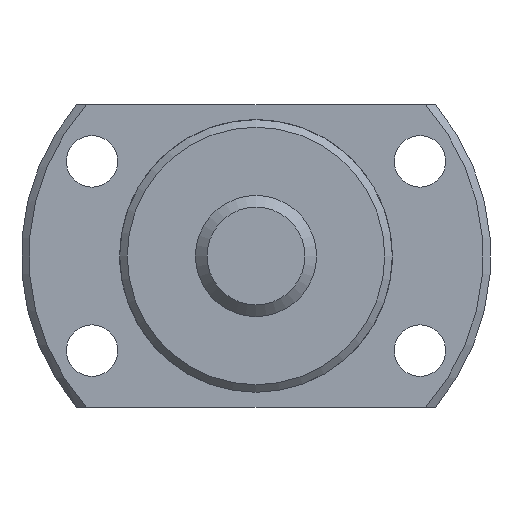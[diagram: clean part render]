
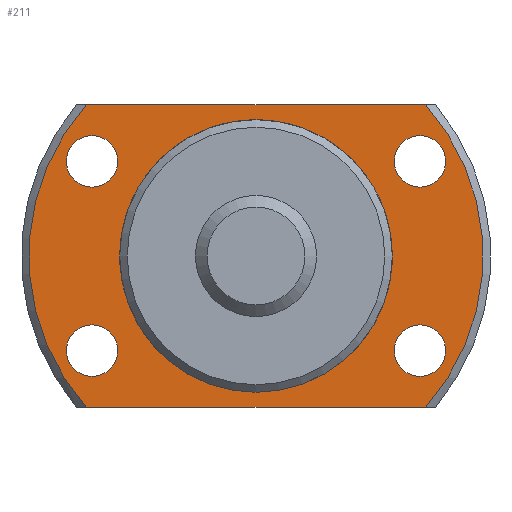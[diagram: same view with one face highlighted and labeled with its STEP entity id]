
A CAD part, left-side view. The second image highlights one B-rep face of the part: STEP entity #211.
In plain terms, the highlighted planar face has unit normal (-1, 0, 0).
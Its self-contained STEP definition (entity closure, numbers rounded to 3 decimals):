
#211 = ADVANCED_FACE( '', ( #329, #330, #331, #332, #333, #334 ), #335, .F. );
#329 = FACE_OUTER_BOUND( '', #474, .T. );
#330 = FACE_BOUND( '', #475, .T. );
#331 = FACE_BOUND( '', #476, .T. );
#332 = FACE_BOUND( '', #477, .T. );
#333 = FACE_BOUND( '', #478, .T. );
#334 = FACE_BOUND( '', #479, .T. );
#335 = PLANE( '', #480 );
#474 = EDGE_LOOP( '', ( #812, #813, #814, #815 ) );
#475 = EDGE_LOOP( '', ( #816 ) );
#476 = EDGE_LOOP( '', ( #817 ) );
#477 = EDGE_LOOP( '', ( #818 ) );
#478 = EDGE_LOOP( '', ( #819 ) );
#479 = EDGE_LOOP( '', ( #820 ) );
#480 = AXIS2_PLACEMENT_3D( '', #821, #822, #823 );
#812 = ORIENTED_EDGE( '', *, *, #940, .F. );
#813 = ORIENTED_EDGE( '', *, *, #1029, .F. );
#814 = ORIENTED_EDGE( '', *, *, #1030, .F. );
#815 = ORIENTED_EDGE( '', *, *, #938, .F. );
#816 = ORIENTED_EDGE( '', *, *, #1031, .T. );
#817 = ORIENTED_EDGE( '', *, *, #1032, .T. );
#818 = ORIENTED_EDGE( '', *, *, #1033, .T. );
#819 = ORIENTED_EDGE( '', *, *, #1034, .T. );
#820 = ORIENTED_EDGE( '', *, *, #1035, .T. );
#821 = CARTESIAN_POINT( '', ( 24., 8.85, 0. ) );
#822 = DIRECTION( '', ( 1., 0., 0. ) );
#823 = DIRECTION( '', ( 0., 0., -1. ) );
#938 = EDGE_CURVE( '', #1066, #1068, #1069, .T. );
#940 = EDGE_CURVE( '', #1071, #1066, #1072, .T. );
#1029 = EDGE_CURVE( '', #1219, #1071, #1220, .T. );
#1030 = EDGE_CURVE( '', #1068, #1219, #1221, .T. );
#1031 = EDGE_CURVE( '', #1222, #1222, #1223, .T. );
#1032 = EDGE_CURVE( '', #1224, #1224, #1225, .T. );
#1033 = EDGE_CURVE( '', #1226, #1226, #1227, .T. );
#1034 = EDGE_CURVE( '', #1228, #1228, #1229, .T. );
#1035 = EDGE_CURVE( '', #1230, #1230, #1231, .T. );
#1066 = VERTEX_POINT( '', #1273 );
#1068 = VERTEX_POINT( '', #1278 );
#1069 = LINE( '', #1279, #1280 );
#1071 = VERTEX_POINT( '', #1285 );
#1072 = CIRCLE( '', #1286, 15. );
#1219 = VERTEX_POINT( '', #1583 );
#1220 = LINE( '', #1584, #1585 );
#1221 = CIRCLE( '', #1586, 15. );
#1222 = VERTEX_POINT( '', #1587 );
#1223 = CIRCLE( '', #1588, 1.7 );
#1224 = VERTEX_POINT( '', #1589 );
#1225 = CIRCLE( '', #1590, 1.7 );
#1226 = VERTEX_POINT( '', #1591 );
#1227 = CIRCLE( '', #1592, 1.7 );
#1228 = VERTEX_POINT( '', #1593 );
#1229 = CIRCLE( '', #1594, 1.7 );
#1230 = VERTEX_POINT( '', #1595 );
#1231 = CIRCLE( '', #1596, 8.85 );
#1273 = CARTESIAN_POINT( '', ( 24., 11.18, 10. ) );
#1278 = CARTESIAN_POINT( '', ( 24., -11.18, 10. ) );
#1279 = CARTESIAN_POINT( '', ( 24., 20.5, 10. ) );
#1280 = VECTOR( '', #1634, 1000. );
#1285 = CARTESIAN_POINT( '', ( 24., 11.18, -10. ) );
#1286 = AXIS2_PLACEMENT_3D( '', #1635, #1636, #1637 );
#1583 = CARTESIAN_POINT( '', ( 24., -11.18, -10. ) );
#1584 = CARTESIAN_POINT( '', ( 24., -20.5, -10. ) );
#1585 = VECTOR( '', #1785, 1000. );
#1586 = AXIS2_PLACEMENT_3D( '', #1786, #1787, #1788 );
#1587 = CARTESIAN_POINT( '', ( 24., -10.825, -7.95 ) );
#1588 = AXIS2_PLACEMENT_3D( '', #1789, #1790, #1791 );
#1589 = CARTESIAN_POINT( '', ( 24., -10.825, 4.55 ) );
#1590 = AXIS2_PLACEMENT_3D( '', #1792, #1793, #1794 );
#1591 = CARTESIAN_POINT( '', ( 24., 10.825, -7.95 ) );
#1592 = AXIS2_PLACEMENT_3D( '', #1795, #1796, #1797 );
#1593 = CARTESIAN_POINT( '', ( 24., 10.825, 4.55 ) );
#1594 = AXIS2_PLACEMENT_3D( '', #1798, #1799, #1800 );
#1595 = CARTESIAN_POINT( '', ( 24., 0., -8.85 ) );
#1596 = AXIS2_PLACEMENT_3D( '', #1801, #1802, #1803 );
#1634 = DIRECTION( '', ( 0., -1., 0. ) );
#1635 = CARTESIAN_POINT( '', ( 24., 0., 0. ) );
#1636 = DIRECTION( '', ( 1., 0., 0. ) );
#1637 = DIRECTION( '', ( 0., 0., -1. ) );
#1785 = DIRECTION( '', ( 0., 1., 0. ) );
#1786 = CARTESIAN_POINT( '', ( 24., 0., 0. ) );
#1787 = DIRECTION( '', ( 1., 0., 0. ) );
#1788 = DIRECTION( '', ( 0., 0., -1. ) );
#1789 = CARTESIAN_POINT( '', ( 24., -10.825, -6.25 ) );
#1790 = DIRECTION( '', ( 1., 0., 0. ) );
#1791 = DIRECTION( '', ( 0., 0., -1. ) );
#1792 = CARTESIAN_POINT( '', ( 24., -10.825, 6.25 ) );
#1793 = DIRECTION( '', ( 1., 0., 0. ) );
#1794 = DIRECTION( '', ( 0., 0., -1. ) );
#1795 = CARTESIAN_POINT( '', ( 24., 10.825, -6.25 ) );
#1796 = DIRECTION( '', ( 1., 0., 0. ) );
#1797 = DIRECTION( '', ( 0., 0., -1. ) );
#1798 = CARTESIAN_POINT( '', ( 24., 10.825, 6.25 ) );
#1799 = DIRECTION( '', ( 1., 0., 0. ) );
#1800 = DIRECTION( '', ( 0., 0., -1. ) );
#1801 = CARTESIAN_POINT( '', ( 24., 0., 0. ) );
#1802 = DIRECTION( '', ( 1., 0., 0. ) );
#1803 = DIRECTION( '', ( 0., 0., -1. ) );
